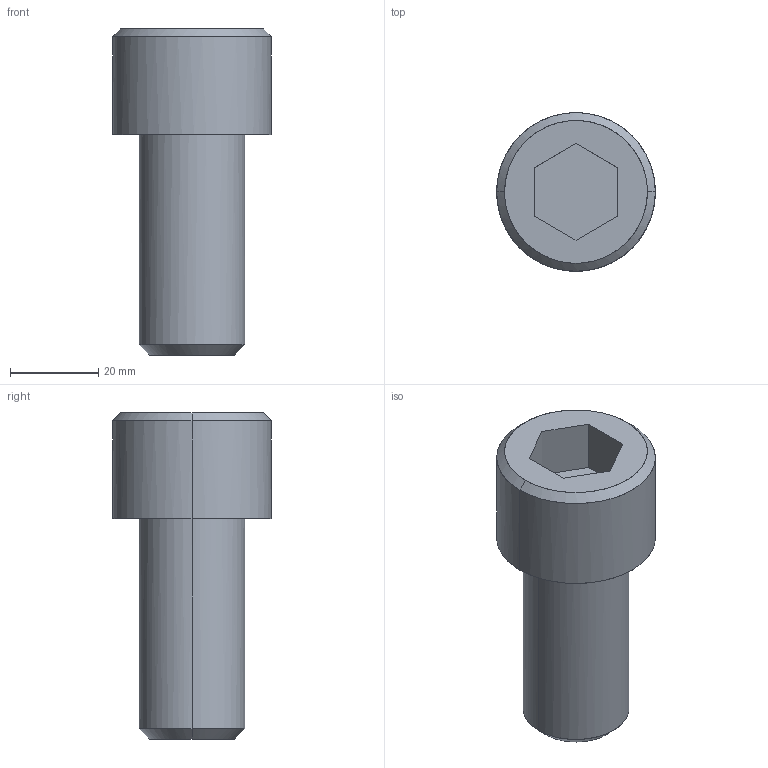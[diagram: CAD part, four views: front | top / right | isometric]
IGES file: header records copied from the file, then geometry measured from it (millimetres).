
Global section: file name: E:\UnigraphicsGraphicData\MISUMI_PRESS-PARTS\IGES\3d_cb24-50_00448_r00.igs; native system: NX V5.0; preprocessor: UGS NX IGES V5.0; author: MISUMI; date: 20110105.160146; units: millimetre
Bounding box: 36 x 36 x 74 mm (x, y, z)
Surface area: 9072.7 mm2 (no closed solid volume)
Topology: 0 solids, 0 shells, 18 faces, 116 edges, 116 vertices
Faces by surface type: bspline 18
